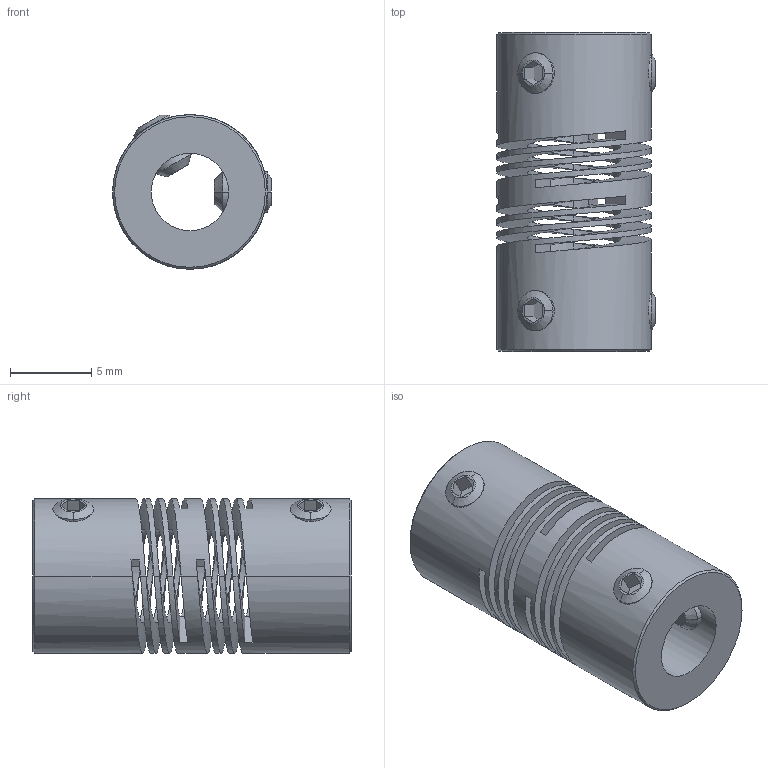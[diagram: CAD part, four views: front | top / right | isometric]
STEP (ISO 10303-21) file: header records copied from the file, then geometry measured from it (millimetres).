
FILE_DESCRIPTION((''),'2;1');
FILE_NAME('726_09_ASM','2006-12-05T',('Gary Melling'),(''),'PRO/ENGINEER BY PARAMETRIC TECHNOLOGY CORPORATION, 2006240','PRO/ENGINEER BY PARAMETRIC TECHNOLOGY CORPORATION, 2006240','');
FILE_SCHEMA(('CONFIG_CONTROL_DESIGN'));
Length unit declared in the file: millimetre
Products named in the file (3): 726_09; GS_2-5; 726_09_ASM
Assembly tree (5 placements, depth 2):
  726_09_ASM
    726_09
    GS_2-5  x4
Bounding box: 9.75 x 19.6 x 9.5 mm (x, y, z)
Volume: 813.6 mm3; surface area: 1703.5 mm2
Topology: 5 solids, 5 shells, 126 faces, 346 edges, 220 vertices
Faces by surface type: plane 52, cylinder 42, cone 20, bspline 12
Entity records: 5071 total; most frequent: CARTESIAN_POINT 2910, ORIENTED_EDGE 500, DIRECTION 336, EDGE_CURVE 250, VERTEX_POINT 160, VECTOR 126, LINE 126, AXIS2_PLACEMENT_3D 105
